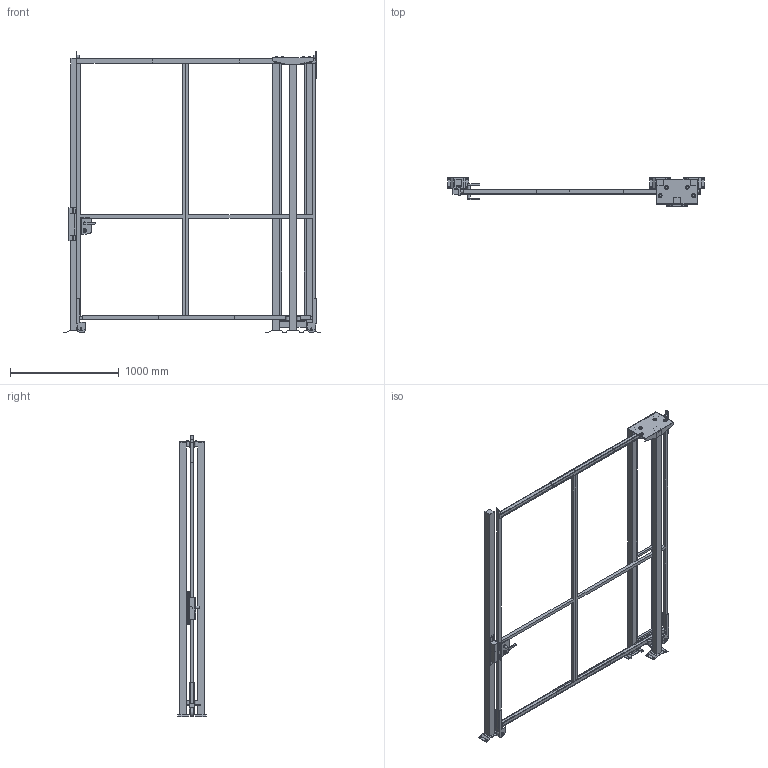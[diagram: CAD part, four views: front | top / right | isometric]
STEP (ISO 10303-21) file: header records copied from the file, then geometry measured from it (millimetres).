
FILE_DESCRIPTION(/* description */ (''),/* implementation_level */ '2;1');
FILE_NAME(/* name */ 'C:\SafeGuarding\ELABORATI\KLADKOUGAMMA_2025-03-21-11-47-37.stp',/* time_stamp */ '2025-03-21T11:47:42+01:00',/* author */ ('admin'),/* organization */ (''),/* preprocessor_version */ 'ST-DEVELOPER v18.1',/* originating_system */ 'AutoCAD Mechanical',/* authorisation */ '');
FILE_SCHEMA (('AUTOMOTIVE_DESIGN { 1 0 10303 214 3 1 1 }'));
Length unit declared in the file: millimetre
Products named in the file (5): Product; VFPA.REPE30.12002400; VFPA.REPE30.10002400; VFPA.REPE2002502400; P_VFMA.V260SDU.2520
Assembly tree (7 placements, depth 2):
  Product
    VFPA.REPE30.12002400
    VFPA.REPE30.10002400
    P_VFMA.V260SDU.2520  x4
    VFPA.REPE2002502400
Bounding box: 2361.91 x 264 x 2590.02 mm (x, y, z)
Volume: 57263157.4 mm3; surface area: 7229888.9 mm2
Topology: 55 solids, 55 shells, 554 faces, 1667 edges, 1590 vertices
Faces by surface type: plane 476, cylinder 74, bspline 4
Full cylindrical faces by diameter (mm): 9 x4, 11 x16, 13 x4, 18 x1, 25 x2, 25.398 x2, 30 x6, 36 x8, 80 x2
Entity records: 16968 total; most frequent: CARTESIAN_POINT 4451, DIRECTION 2491, ORIENTED_EDGE 2206, LINE 1147, VECTOR 1147, EDGE_CURVE 1103, VERTEX_POINT 742, AXIS2_PLACEMENT_3D 672
